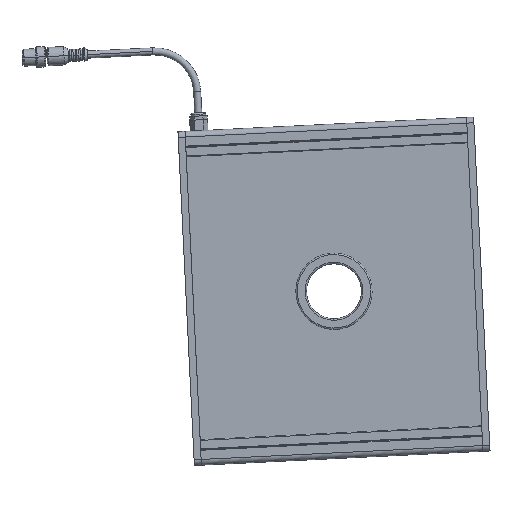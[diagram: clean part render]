
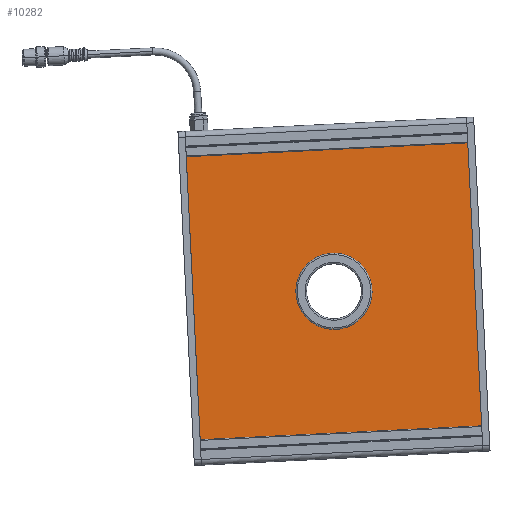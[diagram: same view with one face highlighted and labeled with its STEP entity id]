
A CAD part, top view. The second image highlights one B-rep face of the part: STEP entity #10282.
In plain terms, the highlighted planar face has unit normal (0, 0, 1).
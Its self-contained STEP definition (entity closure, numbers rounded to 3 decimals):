
#35 = VERTEX_POINT ( 'NONE', #12119 ) ;
#88 = ORIENTED_EDGE ( 'NONE', *, *, #5756, .T. ) ;
#94 = DIRECTION ( 'NONE',  ( 0.999, 0.049, 0. ) ) ;
#181 = EDGE_CURVE ( 'NONE', #632, #35, #4939, .T. ) ;
#632 = VERTEX_POINT ( 'NONE', #3964 ) ;
#1350 = EDGE_LOOP ( 'NONE', ( #11476, #7423 ) ) ;
#1357 = EDGE_CURVE ( 'NONE', #12244, #11856, #10598, .T. ) ;
#1695 = DIRECTION ( 'NONE',  ( 0.049, -0.999, 0. ) ) ;
#1992 = VECTOR ( 'NONE', #6218, 1000. ) ;
#2391 = VECTOR ( 'NONE', #5889, 1000. ) ;
#2831 = DIRECTION ( 'NONE',  ( 0.999, 0.049, 0. ) ) ;
#3161 = VECTOR ( 'NONE', #1695, 1000. ) ;
#3246 = VECTOR ( 'NONE', #3642, 1000. ) ;
#3642 = DIRECTION ( 'NONE',  ( 0.999, 0.049, 0. ) ) ;
#3964 = CARTESIAN_POINT ( 'NONE',  ( 99.785, 119.74, 34.5 ) ) ;
#4269 = AXIS2_PLACEMENT_3D ( 'NONE', #13763, #8259, #12726 ) ;
#4794 = CARTESIAN_POINT ( 'NONE',  ( -92.826, -117.001, 34.5 ) ) ;
#4939 = LINE ( 'NONE', #13730, #2391 ) ;
#5550 = CARTESIAN_POINT ( 'NONE',  ( -18.344, 0.297, 34.5 ) ) ;
#5756 = EDGE_CURVE ( 'NONE', #8709, #8617, #13721, .T. ) ;
#5889 = DIRECTION ( 'NONE',  ( -0.999, -0.049, 0. ) ) ;
#6135 = CIRCLE ( 'NONE', #7522, 21.85 ) ;
#6218 = DIRECTION ( 'NONE',  ( -0.049, 0.999, 0. ) ) ;
#7423 = ORIENTED_EDGE ( 'NONE', *, *, #10156, .F. ) ;
#7522 = AXIS2_PLACEMENT_3D ( 'NONE', #13480, #10094, #94 ) ;
#8254 = LINE ( 'NONE', #11839, #1992 ) ;
#8259 = DIRECTION ( 'NONE',  ( 0., 0., 1. ) ) ;
#8617 = VERTEX_POINT ( 'NONE', #12502 ) ;
#8709 = VERTEX_POINT ( 'NONE', #13870 ) ;
#9255 = DIRECTION ( 'NONE',  ( 0., 0., 1. ) ) ;
#9501 = CARTESIAN_POINT ( 'NONE',  ( -92.826, -117.001, 34.5 ) ) ;
#10094 = DIRECTION ( 'NONE',  ( 0., 0., 1. ) ) ;
#10156 = EDGE_CURVE ( 'NONE', #11856, #12244, #6135, .T. ) ;
#10175 = ORIENTED_EDGE ( 'NONE', *, *, #13399, .T. ) ;
#10282 = ADVANCED_FACE ( 'NONE', ( #12655, #13832 ), #10459, .T. ) ;
#10459 = PLANE ( 'NONE',  #4269 ) ;
#10598 = CIRCLE ( 'NONE', #14093, 21.85 ) ;
#11221 = ORIENTED_EDGE ( 'NONE', *, *, #181, .T. ) ;
#11476 = ORIENTED_EDGE ( 'NONE', *, *, #1357, .F. ) ;
#11697 = LINE ( 'NONE', #9501, #3161 ) ;
#11839 = CARTESIAN_POINT ( 'NONE',  ( 110.928, -106.987, 34.5 ) ) ;
#11856 = VERTEX_POINT ( 'NONE', #5550 ) ;
#12031 = ORIENTED_EDGE ( 'NONE', *, *, #13488, .T. ) ;
#12119 = CARTESIAN_POINT ( 'NONE',  ( -103.969, 109.726, 34.5 ) ) ;
#12244 = VERTEX_POINT ( 'NONE', #12860 ) ;
#12502 = CARTESIAN_POINT ( 'NONE',  ( 110.928, -106.987, 34.5 ) ) ;
#12618 = CARTESIAN_POINT ( 'NONE',  ( 3.479, 1.369, 34.5 ) ) ;
#12655 = FACE_OUTER_BOUND ( 'NONE', #13063, .T. ) ;
#12726 = DIRECTION ( 'NONE',  ( 0.999, 0.049, 0. ) ) ;
#12860 = CARTESIAN_POINT ( 'NONE',  ( 25.303, 2.442, 34.5 ) ) ;
#13063 = EDGE_LOOP ( 'NONE', ( #11221, #12031, #88, #10175 ) ) ;
#13399 = EDGE_CURVE ( 'NONE', #8617, #632, #8254, .T. ) ;
#13480 = CARTESIAN_POINT ( 'NONE',  ( 3.479, 1.369, 34.5 ) ) ;
#13488 = EDGE_CURVE ( 'NONE', #35, #8709, #11697, .T. ) ;
#13721 = LINE ( 'NONE', #4794, #3246 ) ;
#13730 = CARTESIAN_POINT ( 'NONE',  ( -103.969, 109.726, 34.5 ) ) ;
#13763 = CARTESIAN_POINT ( 'NONE',  ( 99.785, 119.74, 34.5 ) ) ;
#13832 = FACE_BOUND ( 'NONE', #1350, .T. ) ;
#13870 = CARTESIAN_POINT ( 'NONE',  ( -92.826, -117.001, 34.5 ) ) ;
#14093 = AXIS2_PLACEMENT_3D ( 'NONE', #12618, #9255, #2831 ) ;
